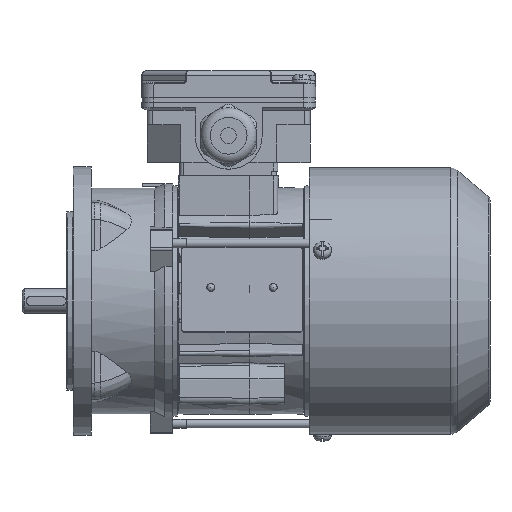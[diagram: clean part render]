
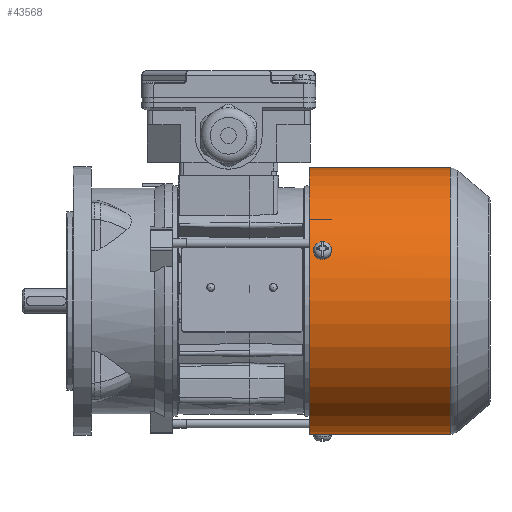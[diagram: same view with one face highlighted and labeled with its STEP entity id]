
A CAD part, front view. The second image highlights one B-rep face of the part: STEP entity #43568.
In plain terms, the highlighted cylindrical face has radius 59.6 mm (diameter 119.2 mm), a full revolution.
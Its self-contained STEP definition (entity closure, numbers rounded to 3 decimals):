
#447=B_SPLINE_CURVE_WITH_KNOTS('',3,(#60952,#60953,#60954,#60955,#60956,
#60957,#60958),.UNSPECIFIED.,.F.,.F.,(4,1,1,1,4),(0.,
0.002,0.004,0.006,0.007),
 .UNSPECIFIED.);
#448=B_SPLINE_CURVE_WITH_KNOTS('',3,(#60965,#60966,#60967,#60968,#60969,
#60970,#60971),.UNSPECIFIED.,.F.,.F.,(4,1,1,1,4),(0.,0.002,
0.004,0.006,0.007),
 .UNSPECIFIED.);
#449=B_SPLINE_CURVE_WITH_KNOTS('',3,(#61000,#61001,#61002,#61003,#61004,
#61005,#61006),.UNSPECIFIED.,.F.,.F.,(4,1,1,1,4),(0.,
0.002,0.004,0.006,0.008),
 .UNSPECIFIED.);
#450=B_SPLINE_CURVE_WITH_KNOTS('',3,(#61011,#61012,#61013,#61014,#61015,
#61016,#61017),.UNSPECIFIED.,.F.,.F.,(4,1,1,1,4),(0.,0.002,
0.004,0.006,0.008),
 .UNSPECIFIED.);
#451=B_SPLINE_CURVE_WITH_KNOTS('',3,(#61020,#61021,#61022,#61023,#61024,
#61025,#61026),.UNSPECIFIED.,.F.,.F.,(4,1,1,1,4),(0.,0.002,
0.004,0.006,0.008),
 .UNSPECIFIED.);
#452=B_SPLINE_CURVE_WITH_KNOTS('',3,(#61031,#61032,#61033,#61034,#61035,
#61036,#61037),.UNSPECIFIED.,.F.,.F.,(4,1,1,1,4),(0.,0.002,
0.004,0.006,0.008),
 .UNSPECIFIED.);
#6969=CYLINDRICAL_SURFACE('',#45545,59.6);
#9037=ORIENTED_EDGE('',*,*,#17787,.T.);
#9038=ORIENTED_EDGE('',*,*,#17788,.T.);
#9039=ORIENTED_EDGE('',*,*,#17789,.T.);
#9040=ORIENTED_EDGE('',*,*,#17790,.T.);
#9041=ORIENTED_EDGE('',*,*,#17770,.F.);
#9042=ORIENTED_EDGE('',*,*,#17773,.F.);
#9043=ORIENTED_EDGE('',*,*,#17791,.T.);
#9044=ORIENTED_EDGE('',*,*,#17792,.T.);
#9045=ORIENTED_EDGE('',*,*,#17793,.T.);
#9046=ORIENTED_EDGE('',*,*,#17794,.T.);
#9047=ORIENTED_EDGE('',*,*,#17795,.F.);
#9048=ORIENTED_EDGE('',*,*,#17796,.T.);
#17770=EDGE_CURVE('',#22276,#22277,#447,.T.);
#17773=EDGE_CURVE('',#22277,#22276,#448,.T.);
#17787=EDGE_CURVE('',#22292,#22293,#449,.T.);
#17788=EDGE_CURVE('',#22293,#22294,#25060,.F.);
#17789=EDGE_CURVE('',#22294,#22295,#450,.T.);
#17790=EDGE_CURVE('',#22295,#22292,#25061,.F.);
#17791=EDGE_CURVE('',#22296,#22297,#451,.T.);
#17792=EDGE_CURVE('',#22297,#22298,#25062,.F.);
#17793=EDGE_CURVE('',#22298,#22299,#452,.T.);
#17794=EDGE_CURVE('',#22299,#22296,#25063,.F.);
#17795=EDGE_CURVE('',#22300,#22300,#25064,.T.);
#17796=EDGE_CURVE('',#22301,#22301,#25065,.F.);
#22276=VERTEX_POINT('',#60950);
#22277=VERTEX_POINT('',#60951);
#22292=VERTEX_POINT('',#61007);
#22293=VERTEX_POINT('',#61008);
#22294=VERTEX_POINT('',#61010);
#22295=VERTEX_POINT('',#61018);
#22296=VERTEX_POINT('',#61027);
#22297=VERTEX_POINT('',#61028);
#22298=VERTEX_POINT('',#61030);
#22299=VERTEX_POINT('',#61038);
#22300=VERTEX_POINT('',#61041);
#22301=VERTEX_POINT('',#61043);
#25060=CIRCLE('',#45546,59.6);
#25061=CIRCLE('',#45547,59.6);
#25062=CIRCLE('',#45548,59.6);
#25063=CIRCLE('',#45549,59.6);
#25064=CIRCLE('',#45550,59.6);
#25065=CIRCLE('',#45551,59.6);
#26530=EDGE_LOOP('',(#9037,#9038,#9039,#9040));
#26531=EDGE_LOOP('',(#9041,#9042));
#26532=EDGE_LOOP('',(#9043,#9044,#9045,#9046));
#26533=EDGE_LOOP('',(#9047));
#26534=EDGE_LOOP('',(#9048));
#28685=FACE_BOUND('',#26530,.T.);
#28686=FACE_BOUND('',#26531,.T.);
#28687=FACE_BOUND('',#26532,.T.);
#28688=FACE_BOUND('',#26533,.T.);
#28689=FACE_BOUND('',#26534,.T.);
#43568=ADVANCED_FACE('',(#28685,#28686,#28687,#28688,#28689),#6969,.T.);
#45545=AXIS2_PLACEMENT_3D('',#60999,#49652,#49653);
#45546=AXIS2_PLACEMENT_3D('',#61009,#49654,#49655);
#45547=AXIS2_PLACEMENT_3D('',#61019,#49656,#49657);
#45548=AXIS2_PLACEMENT_3D('',#61029,#49658,#49659);
#45549=AXIS2_PLACEMENT_3D('',#61039,#49660,#49661);
#45550=AXIS2_PLACEMENT_3D('',#61040,#49662,#49663);
#45551=AXIS2_PLACEMENT_3D('',#61042,#49664,#49665);
#49652=DIRECTION('',(-1.,0.,0.));
#49653=DIRECTION('',(0.,0.,1.));
#49654=DIRECTION('',(-1.,0.,0.));
#49655=DIRECTION('',(0.,0.866,-0.5));
#49656=DIRECTION('',(1.,0.,0.));
#49657=DIRECTION('',(0.,-0.866,0.5));
#49658=DIRECTION('',(-1.,0.,0.));
#49659=DIRECTION('',(0.,0.,1.));
#49660=DIRECTION('',(1.,0.,0.));
#49661=DIRECTION('',(0.,0.,-1.));
#49662=DIRECTION('',(-1.,0.,0.));
#49663=DIRECTION('',(0.,0.,1.));
#49664=DIRECTION('',(1.,0.,0.));
#49665=DIRECTION('',(0.,0.,-1.));
#60950=CARTESIAN_POINT('',(35.,8.295,-59.02));
#60951=CARTESIAN_POINT('',(30.,8.295,-59.02));
#60952=CARTESIAN_POINT('',(35.,8.295,-59.02));
#60953=CARTESIAN_POINT('',(34.937,7.681,-59.106));
#60954=CARTESIAN_POINT('',(34.356,6.499,-59.249));
#60955=CARTESIAN_POINT('',(32.502,5.777,-59.318));
#60956=CARTESIAN_POINT('',(30.649,6.493,-59.25));
#60957=CARTESIAN_POINT('',(30.063,7.681,-59.106));
#60958=CARTESIAN_POINT('',(30.,8.295,-59.02));
#60965=CARTESIAN_POINT('',(30.,8.295,-59.02));
#60966=CARTESIAN_POINT('',(30.063,8.908,-58.934));
#60967=CARTESIAN_POINT('',(30.644,10.084,-58.746));
#60968=CARTESIAN_POINT('',(32.498,10.797,-58.613));
#60969=CARTESIAN_POINT('',(34.351,10.09,-58.745));
#60970=CARTESIAN_POINT('',(34.937,8.908,-58.934));
#60971=CARTESIAN_POINT('',(35.,8.295,-59.02));
#60999=CARTESIAN_POINT('',(-33.5,0.,0.));
#61000=CARTESIAN_POINT('',(30.,47.484,36.02));
#61001=CARTESIAN_POINT('',(30.,47.883,35.493));
#61002=CARTESIAN_POINT('',(30.542,48.645,34.446));
#61003=CARTESIAN_POINT('',(32.498,49.108,33.771));
#61004=CARTESIAN_POINT('',(34.458,48.646,34.444));
#61005=CARTESIAN_POINT('',(35.,47.883,35.493));
#61006=CARTESIAN_POINT('',(35.,47.484,36.02));
#61007=CARTESIAN_POINT('',(30.,47.484,36.02));
#61008=CARTESIAN_POINT('',(35.,47.484,36.02));
#61009=CARTESIAN_POINT('',(35.,0.,0.));
#61010=CARTESIAN_POINT('',(35.,46.437,37.36));
#61011=CARTESIAN_POINT('',(35.,46.437,37.36));
#61012=CARTESIAN_POINT('',(35.,46.023,37.874));
#61013=CARTESIAN_POINT('',(34.458,45.191,38.867));
#61014=CARTESIAN_POINT('',(32.502,44.648,39.479));
#61015=CARTESIAN_POINT('',(30.542,45.19,38.869));
#61016=CARTESIAN_POINT('',(30.,46.023,37.874));
#61017=CARTESIAN_POINT('',(30.,46.437,37.36));
#61018=CARTESIAN_POINT('',(30.,46.437,37.36));
#61019=CARTESIAN_POINT('',(30.,0.,0.));
#61020=CARTESIAN_POINT('',(30.,-54.936,23.112));
#61021=CARTESIAN_POINT('',(30.,-54.68,23.721));
#61022=CARTESIAN_POINT('',(30.542,-54.154,24.905));
#61023=CARTESIAN_POINT('',(32.498,-53.8,25.643));
#61024=CARTESIAN_POINT('',(34.458,-54.153,24.907));
#61025=CARTESIAN_POINT('',(35.,-54.68,23.721));
#61026=CARTESIAN_POINT('',(35.,-54.936,23.112));
#61027=CARTESIAN_POINT('',(30.,-54.936,23.112));
#61028=CARTESIAN_POINT('',(35.,-54.936,23.112));
#61029=CARTESIAN_POINT('',(35.,0.,0.));
#61030=CARTESIAN_POINT('',(35.,-55.573,21.536));
#61031=CARTESIAN_POINT('',(35.,-55.573,21.536));
#61032=CARTESIAN_POINT('',(35.,-55.812,20.92));
#61033=CARTESIAN_POINT('',(34.458,-56.255,19.703));
#61034=CARTESIAN_POINT('',(32.502,-56.514,18.927));
#61035=CARTESIAN_POINT('',(30.542,-56.256,19.701));
#61036=CARTESIAN_POINT('',(30.,-55.812,20.92));
#61037=CARTESIAN_POINT('',(30.,-55.573,21.536));
#61038=CARTESIAN_POINT('',(30.,-55.573,21.536));
#61039=CARTESIAN_POINT('',(30.,0.,0.));
#61040=CARTESIAN_POINT('',(26.5,0.,0.));
#61041=CARTESIAN_POINT('',(26.5,0.,59.6));
#61042=CARTESIAN_POINT('',(89.809,0.,0.));
#61043=CARTESIAN_POINT('',(89.809,0.,-59.6));
